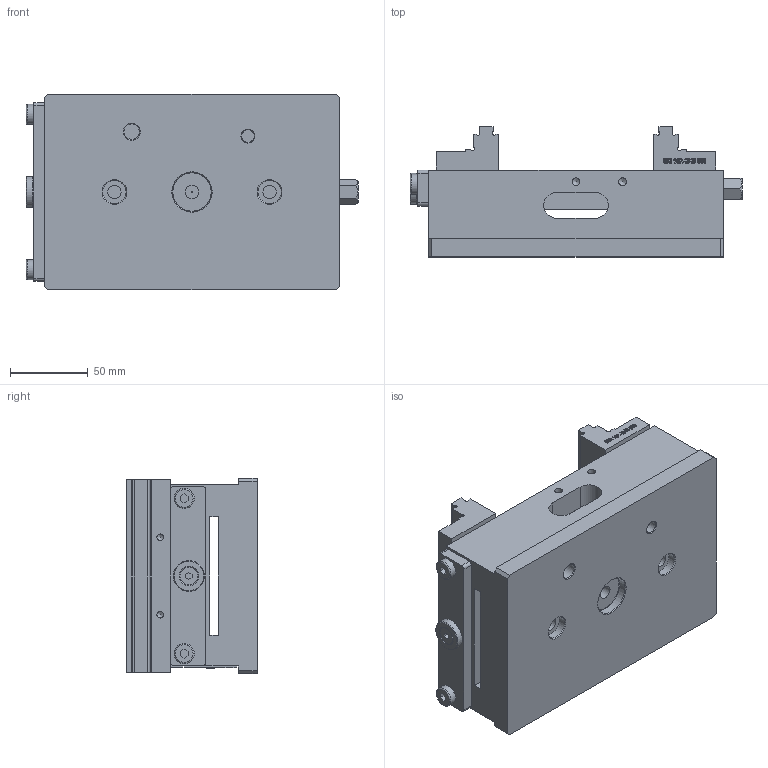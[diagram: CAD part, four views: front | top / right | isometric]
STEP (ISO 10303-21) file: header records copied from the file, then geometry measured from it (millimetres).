
FILE_DESCRIPTION (( 'STEP AP214' ), '1' );
FILE_NAME ('3D-6921628051155.STEP', '2023-12-01T10:42:07', ( '' ), ( '' ), 'SwSTEP 2.0', 'SolidWorks 2021', '' );
FILE_SCHEMA (( 'AUTOMOTIVE_DESIGN' ));
Length unit declared in the file: millimetre
Products named in the file (4): 3D-692162805x155; 3D-6921624040000; 3D-6921624030000; 3D-6921628051155
Assembly tree (3 placements, depth 2):
  3D-6921628051155
    3D-692162805x155
    3D-6921624030000
    3D-6921624040000
Bounding box: 214 x 84 x 126 mm (x, y, z)
Volume: 1343306.7 mm3; surface area: 163956 mm2
Topology: 3 solids, 7 shells, 1311 faces, 3454 edges, 2296 vertices
Faces by surface type: plane 705, bspline 518, cylinder 56, cone 26, torus 6
Full cylindrical faces by diameter (mm): 2 x4, 3 x4, 3.8 x4, 4.2 x8, 5 x6, 8 x1, 8.5 x3, 10 x1, 11.6 x1, 13 x2, 15 x2, 17.5 x1, 20 x1, 24.7 x1, 25 x1
Entity records: 66329 total; most frequent: CARTESIAN_POINT 37347, ORIENTED_EDGE 6700, DIRECTION 4042, EDGE_CURVE 3350, VERTEX_POINT 2264, LINE 2168, VECTOR 2168, EDGE_LOOP 1550
